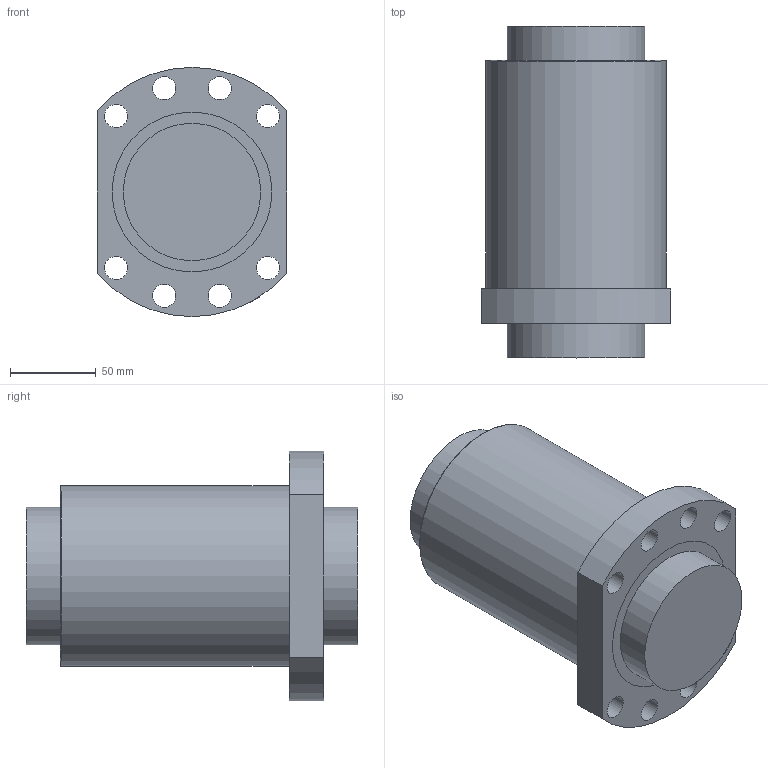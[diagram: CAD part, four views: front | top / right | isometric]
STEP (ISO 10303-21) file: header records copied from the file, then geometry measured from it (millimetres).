
FILE_DESCRIPTION(/* description */ (''),/* implementation_level */ '2;1');
FILE_NAME(/* name */ 'OFU08010-4.stp',/* time_stamp */ '2017-03-13T10:55:56+08:00',/* author */ (''),/* organization */ (''),/* preprocessor_version */ 'ST-DEVELOPER v11',/* originating_system */ 'SIEMENS UGS NX 6.0',/* authorisation */ '');
FILE_SCHEMA (('CONFIG_CONTROL_DESIGN'));
Length unit declared in the file: millimetre
Products named in the file (1): OFU08010-4
Bounding box: 110 x 193 x 145 mm (x, y, z)
Volume: 1614159.9 mm3; surface area: 186480.2 mm2
Topology: 4 solids, 4 shells, 36 faces, 80 edges, 56 vertices
Faces by surface type: cylinder 21, plane 14, torus 1
Full cylindrical faces by diameter (mm): 4 x1, 7 x1, 13.5 x8, 80 x4, 93 x4, 105 x1
Entity records: 1086 total; most frequent: CARTESIAN_POINT 249, DIRECTION 164, ORIENTED_EDGE 102, EDGE_LOOP 84, FACE_BOUND 79, AXIS2_PLACEMENT_3D 78, EDGE_CURVE 51, VERTEX_POINT 47
